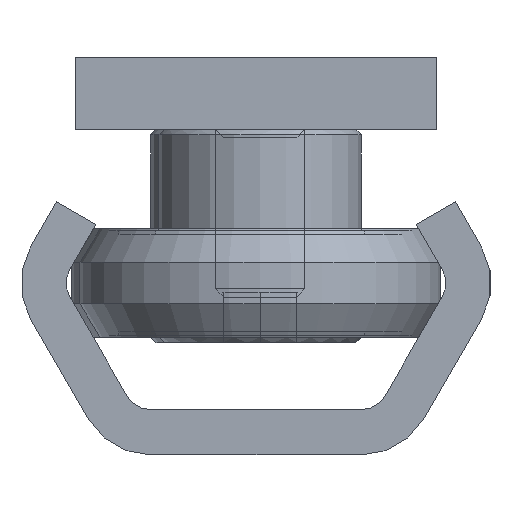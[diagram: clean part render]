
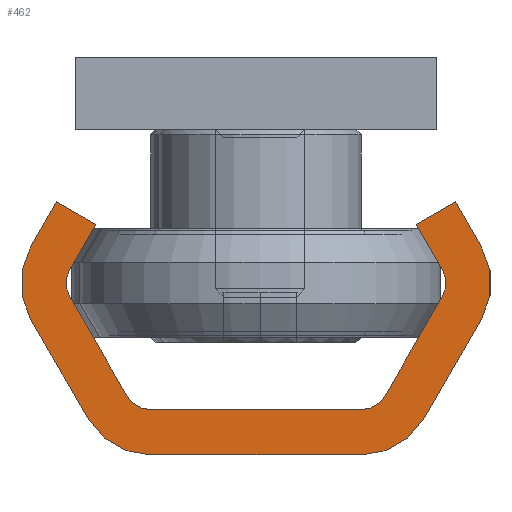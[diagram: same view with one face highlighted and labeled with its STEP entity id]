
A CAD part, left-side view. The second image highlights one B-rep face of the part: STEP entity #462.
In plain terms, the highlighted planar face has unit normal (-1, 0, 0).
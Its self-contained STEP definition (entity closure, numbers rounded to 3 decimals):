
#462 = ADVANCED_FACE( '', ( #1058 ), #1059, .F. );
#1058 = FACE_OUTER_BOUND( '', #1984, .T. );
#1059 = PLANE( '', #1985 );
#1984 = EDGE_LOOP( '', ( #3101, #3102, #3103, #3104, #3105, #3106, #3107, #3108, #3109, #3110, #3111, #3112, #3113, #3114, #3115, #3116, #3117, #3118, #3119, #3120 ) );
#1985 = AXIS2_PLACEMENT_3D( '', #3121, #3122, #3123 );
#3101 = ORIENTED_EDGE( '', *, *, #4297, .F. );
#3102 = ORIENTED_EDGE( '', *, *, #4383, .F. );
#3103 = ORIENTED_EDGE( '', *, *, #4144, .F. );
#3104 = ORIENTED_EDGE( '', *, *, #4384, .F. );
#3105 = ORIENTED_EDGE( '', *, *, #4385, .F. );
#3106 = ORIENTED_EDGE( '', *, *, #4386, .F. );
#3107 = ORIENTED_EDGE( '', *, *, #4190, .F. );
#3108 = ORIENTED_EDGE( '', *, *, #4387, .T. );
#3109 = ORIENTED_EDGE( '', *, *, #4388, .F. );
#3110 = ORIENTED_EDGE( '', *, *, #4389, .T. );
#3111 = ORIENTED_EDGE( '', *, *, #4390, .F. );
#3112 = ORIENTED_EDGE( '', *, *, #4391, .T. );
#3113 = ORIENTED_EDGE( '', *, *, #4254, .F. );
#3114 = ORIENTED_EDGE( '', *, *, #4392, .T. );
#3115 = ORIENTED_EDGE( '', *, *, #4178, .F. );
#3116 = ORIENTED_EDGE( '', *, *, #4393, .F. );
#3117 = ORIENTED_EDGE( '', *, *, #4394, .F. );
#3118 = ORIENTED_EDGE( '', *, *, #4395, .F. );
#3119 = ORIENTED_EDGE( '', *, *, #4396, .F. );
#3120 = ORIENTED_EDGE( '', *, *, #4397, .F. );
#3121 = CARTESIAN_POINT( '', ( 0., -5.825, -4. ) );
#3122 = DIRECTION( '', ( 1., 0., 0. ) );
#3123 = DIRECTION( '', ( 0., 0., -1. ) );
#4144 = EDGE_CURVE( '', #4715, #4716, #4717, .T. );
#4178 = EDGE_CURVE( '', #4776, #4777, #4778, .T. );
#4190 = EDGE_CURVE( '', #4798, #4799, #4800, .T. );
#4254 = EDGE_CURVE( '', #4902, #4903, #4904, .T. );
#4297 = EDGE_CURVE( '', #4984, #4985, #4986, .T. );
#4383 = EDGE_CURVE( '', #4716, #4984, #5121, .T. );
#4384 = EDGE_CURVE( '', #5122, #4715, #5123, .T. );
#4385 = EDGE_CURVE( '', #5124, #5122, #5125, .T. );
#4386 = EDGE_CURVE( '', #4799, #5124, #5126, .T. );
#4387 = EDGE_CURVE( '', #4798, #5127, #5128, .T. );
#4388 = EDGE_CURVE( '', #5129, #5127, #5130, .T. );
#4389 = EDGE_CURVE( '', #5129, #5131, #5132, .T. );
#4390 = EDGE_CURVE( '', #5133, #5131, #5134, .T. );
#4391 = EDGE_CURVE( '', #5133, #4903, #5135, .T. );
#4392 = EDGE_CURVE( '', #4902, #4777, #5136, .T. );
#4393 = EDGE_CURVE( '', #5137, #4776, #5138, .T. );
#4394 = EDGE_CURVE( '', #5139, #5137, #5140, .T. );
#4395 = EDGE_CURVE( '', #5141, #5139, #5142, .T. );
#4396 = EDGE_CURVE( '', #5143, #5141, #5144, .T. );
#4397 = EDGE_CURVE( '', #4985, #5143, #5145, .T. );
#4715 = VERTEX_POINT( '', #5563 );
#4716 = VERTEX_POINT( '', #5564 );
#4717 = LINE( '', #5565, #5566 );
#4776 = VERTEX_POINT( '', #5628 );
#4777 = VERTEX_POINT( '', #5629 );
#4778 = LINE( '', #5630, #5631 );
#4798 = VERTEX_POINT( '', #5660 );
#4799 = VERTEX_POINT( '', #5661 );
#4800 = LINE( '', #5662, #5663 );
#4902 = VERTEX_POINT( '', #5776 );
#4903 = VERTEX_POINT( '', #5777 );
#4904 = LINE( '', #5778, #5779 );
#4984 = VERTEX_POINT( '', #5863 );
#4985 = VERTEX_POINT( '', #5864 );
#4986 = LINE( '', #5865, #5866 );
#5121 = CIRCLE( '', #6028, 4. );
#5122 = VERTEX_POINT( '', #6029 );
#5123 = CIRCLE( '', #6030, 4. );
#5124 = VERTEX_POINT( '', #6031 );
#5125 = LINE( '', #6032, #6033 );
#5126 = LINE( '', #6034, #6035 );
#5127 = VERTEX_POINT( '', #6036 );
#5128 = CIRCLE( '', #6037, 1.5 );
#5129 = VERTEX_POINT( '', #6038 );
#5130 = LINE( '', #6039, #6040 );
#5131 = VERTEX_POINT( '', #6041 );
#5132 = CIRCLE( '', #6042, 1.5 );
#5133 = VERTEX_POINT( '', #6043 );
#5134 = LINE( '', #6044, #6045 );
#5135 = CIRCLE( '', #6046, 1.5 );
#5136 = CIRCLE( '', #6047, 1.5 );
#5137 = VERTEX_POINT( '', #6048 );
#5138 = LINE( '', #6049, #6050 );
#5139 = VERTEX_POINT( '', #6051 );
#5140 = LINE( '', #6052, #6053 );
#5141 = VERTEX_POINT( '', #6054 );
#5142 = CIRCLE( '', #6055, 4. );
#5143 = VERTEX_POINT( '', #6056 );
#5144 = LINE( '', #6057, #6058 );
#5145 = CIRCLE( '', #6059, 4. );
#5563 = CARTESIAN_POINT( '', ( 0., 12.464, -7.5 ) );
#5564 = CARTESIAN_POINT( '', ( 0., 9.289, -2. ) );
#5565 = CARTESIAN_POINT( '', ( 0., 12.464, -7.5 ) );
#5566 = VECTOR( '', #6523, 1000. );
#5628 = CARTESIAN_POINT( '', ( 0., -8.856, -12.75 ) );
#5629 = CARTESIAN_POINT( '', ( 0., -10.299, -10.25 ) );
#5630 = CARTESIAN_POINT( '', ( 0., -8.856, -12.75 ) );
#5631 = VECTOR( '', #6596, 1000. );
#5660 = CARTESIAN_POINT( '', ( 0., 10.299, -10.25 ) );
#5661 = CARTESIAN_POINT( '', ( 0., 8.856, -12.75 ) );
#5662 = CARTESIAN_POINT( '', ( 0., 10.299, -10.25 ) );
#5663 = VECTOR( '', #6606, 1000. );
#5776 = CARTESIAN_POINT( '', ( 0., -10.299, -8.75 ) );
#5777 = CARTESIAN_POINT( '', ( 0., -7.124, -3.25 ) );
#5778 = CARTESIAN_POINT( '', ( 0., -10.299, -8.75 ) );
#5779 = VECTOR( '', #6711, 1000. );
#5863 = CARTESIAN_POINT( '', ( 0., 5.825, 0. ) );
#5864 = CARTESIAN_POINT( '', ( 0., -5.825, 0. ) );
#5865 = CARTESIAN_POINT( '', ( 0., 5.825, 0. ) );
#5866 = VECTOR( '', #6824, 1000. );
#6028 = AXIS2_PLACEMENT_3D( '', #6960, #6961, #6962 );
#6029 = CARTESIAN_POINT( '', ( 0., 12.464, -11.5 ) );
#6030 = AXIS2_PLACEMENT_3D( '', #6963, #6964, #6965 );
#6031 = CARTESIAN_POINT( '', ( 0., 11.021, -14. ) );
#6032 = CARTESIAN_POINT( '', ( 0., 11.021, -14. ) );
#6033 = VECTOR( '', #6966, 1000. );
#6034 = CARTESIAN_POINT( '', ( 0., 8.856, -12.75 ) );
#6035 = VECTOR( '', #6967, 1000. );
#6036 = CARTESIAN_POINT( '', ( 0., 10.299, -8.75 ) );
#6037 = AXIS2_PLACEMENT_3D( '', #6968, #6969, #6970 );
#6038 = CARTESIAN_POINT( '', ( 0., 7.124, -3.25 ) );
#6039 = CARTESIAN_POINT( '', ( 0., 7.124, -3.25 ) );
#6040 = VECTOR( '', #6971, 1000. );
#6041 = CARTESIAN_POINT( '', ( 0., 5.825, -2.5 ) );
#6042 = AXIS2_PLACEMENT_3D( '', #6972, #6973, #6974 );
#6043 = CARTESIAN_POINT( '', ( 0., -5.825, -2.5 ) );
#6044 = CARTESIAN_POINT( '', ( 0., -5.825, -2.5 ) );
#6045 = VECTOR( '', #6975, 1000. );
#6046 = AXIS2_PLACEMENT_3D( '', #6976, #6977, #6978 );
#6047 = AXIS2_PLACEMENT_3D( '', #6979, #6980, #6981 );
#6048 = CARTESIAN_POINT( '', ( 0., -11.021, -14. ) );
#6049 = CARTESIAN_POINT( '', ( 0., -11.021, -14. ) );
#6050 = VECTOR( '', #6982, 1000. );
#6051 = CARTESIAN_POINT( '', ( 0., -12.464, -11.5 ) );
#6052 = CARTESIAN_POINT( '', ( 0., -12.464, -11.5 ) );
#6053 = VECTOR( '', #6983, 1000. );
#6054 = CARTESIAN_POINT( '', ( 0., -12.464, -7.5 ) );
#6055 = AXIS2_PLACEMENT_3D( '', #6984, #6985, #6986 );
#6056 = CARTESIAN_POINT( '', ( 0., -9.289, -2. ) );
#6057 = CARTESIAN_POINT( '', ( 0., -9.289, -2. ) );
#6058 = VECTOR( '', #6987, 1000. );
#6059 = AXIS2_PLACEMENT_3D( '', #6988, #6989, #6990 );
#6523 = DIRECTION( '', ( 0., -0.5, 0.866 ) );
#6596 = DIRECTION( '', ( 0., -0.5, 0.866 ) );
#6606 = DIRECTION( '', ( 0., -0.5, -0.866 ) );
#6711 = DIRECTION( '', ( 0., 0.5, 0.866 ) );
#6824 = DIRECTION( '', ( 0., -1., 0. ) );
#6960 = CARTESIAN_POINT( '', ( 0., 5.825, -4. ) );
#6961 = DIRECTION( '', ( 1., 0., 0. ) );
#6962 = DIRECTION( '', ( 0., 0., -1. ) );
#6963 = CARTESIAN_POINT( '', ( 0., 9., -9.5 ) );
#6964 = DIRECTION( '', ( 1., 0., 0. ) );
#6965 = DIRECTION( '', ( 0., 0., -1. ) );
#6966 = DIRECTION( '', ( 0., 0.5, 0.866 ) );
#6967 = DIRECTION( '', ( 0., 0.866, -0.5 ) );
#6968 = CARTESIAN_POINT( '', ( 0., 9., -9.5 ) );
#6969 = DIRECTION( '', ( 1., 0., 0. ) );
#6970 = DIRECTION( '', ( 0., 0., -1. ) );
#6971 = DIRECTION( '', ( 0., 0.5, -0.866 ) );
#6972 = CARTESIAN_POINT( '', ( 0., 5.825, -4. ) );
#6973 = DIRECTION( '', ( 1., 0., 0. ) );
#6974 = DIRECTION( '', ( 0., 0., -1. ) );
#6975 = DIRECTION( '', ( 0., 1., 0. ) );
#6976 = CARTESIAN_POINT( '', ( 0., -5.825, -4. ) );
#6977 = DIRECTION( '', ( 1., 0., 0. ) );
#6978 = DIRECTION( '', ( 0., 0., -1. ) );
#6979 = CARTESIAN_POINT( '', ( 0., -9., -9.5 ) );
#6980 = DIRECTION( '', ( 1., 0., 0. ) );
#6981 = DIRECTION( '', ( 0., 0., -1. ) );
#6982 = DIRECTION( '', ( 0., 0.866, 0.5 ) );
#6983 = DIRECTION( '', ( 0., 0.5, -0.866 ) );
#6984 = CARTESIAN_POINT( '', ( 0., -9., -9.5 ) );
#6985 = DIRECTION( '', ( 1., 0., 0. ) );
#6986 = DIRECTION( '', ( 0., 0., -1. ) );
#6987 = DIRECTION( '', ( 0., -0.5, -0.866 ) );
#6988 = CARTESIAN_POINT( '', ( 0., -5.825, -4. ) );
#6989 = DIRECTION( '', ( 1., 0., 0. ) );
#6990 = DIRECTION( '', ( 0., 0., -1. ) );
